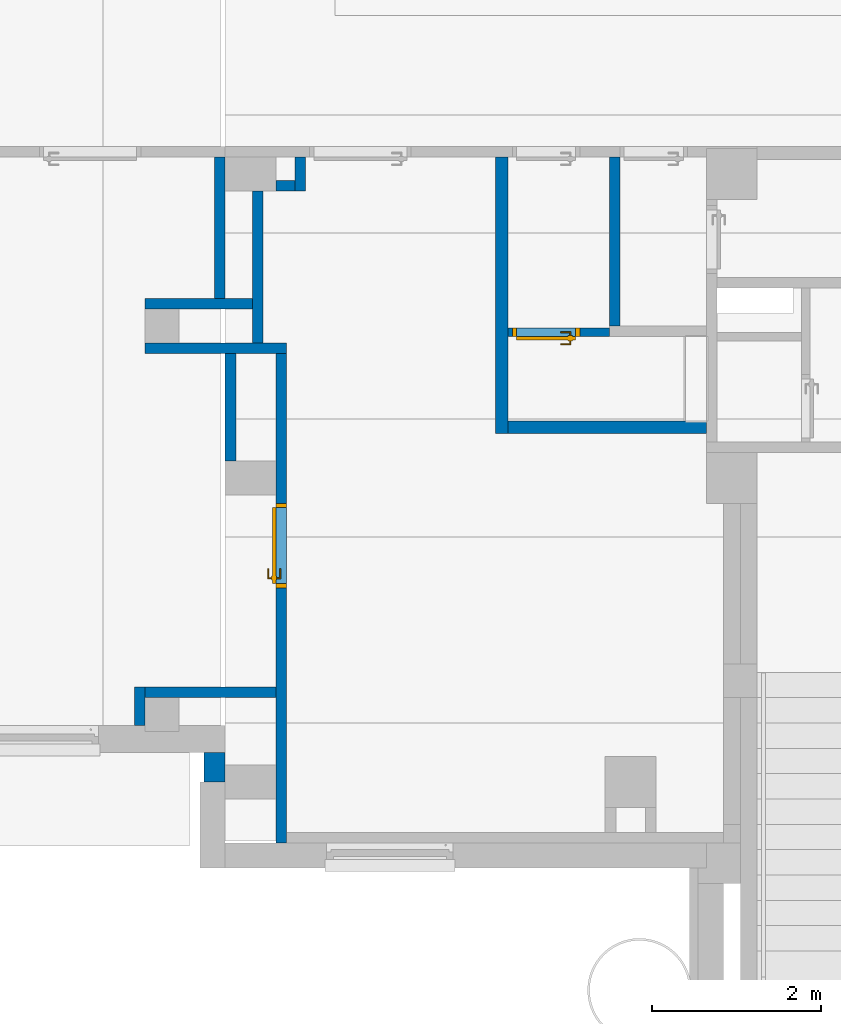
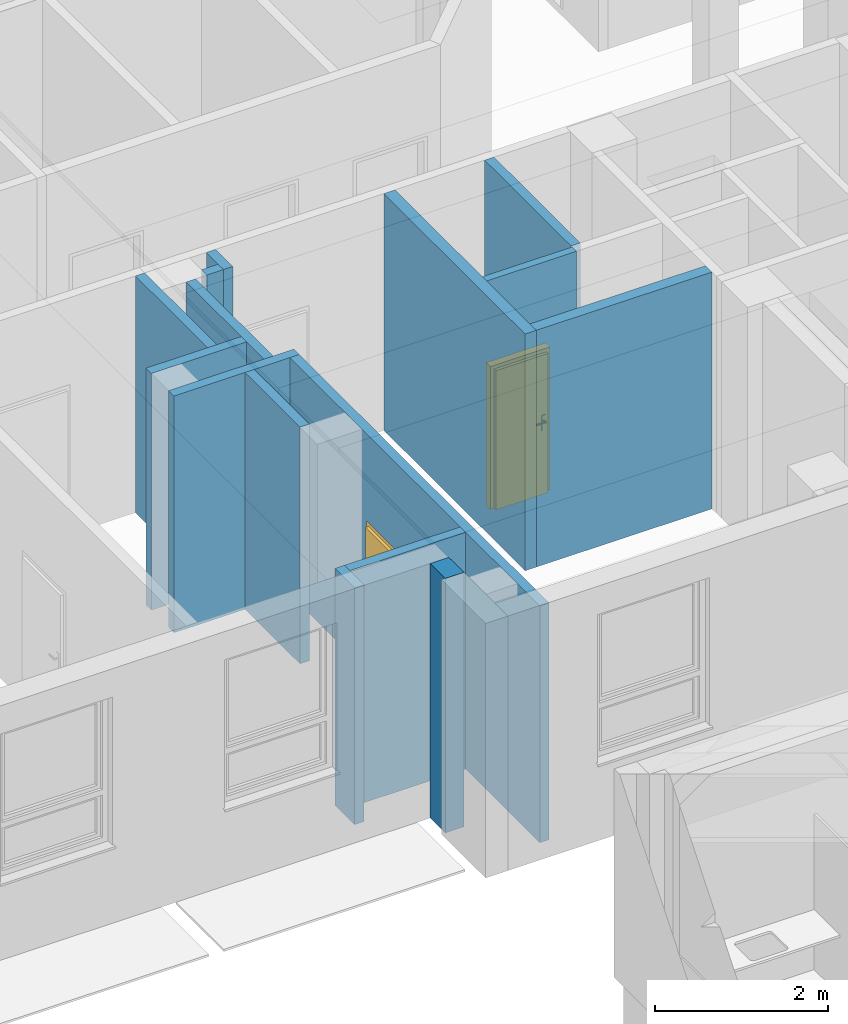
# One storey, part 33 of 140: 15 walls, 2 doors, 2 openings.
"""IFC4 building model written with IfcOpenShell, lengths in metres."""

from ifc_helpers import new_model, entity, si_unit, converted_unit, derived_unit, frame, frame_2d, origin, origin_with_axes, place, context, subcontext, project, spatial, polyline, rectangle, outline, extrude, closed_shell, open_shell, surface_model, source, transform, mapped, material, layer, layer_set, layer_usage, type_object, element, fill, save


model = new_model("IFC4")

# Units and contexts
model_context = context("Model", 3, precision=1e-05, world=origin())
body_context = subcontext(model_context, "Body", "Model", "MODEL_VIEW")
ifc_project = project(units=[si_unit("LENGTHUNIT", "METRE"), si_unit("AREAUNIT", "SQUARE_METRE"), si_unit("VOLUMEUNIT", "CUBIC_METRE"), si_unit("MASSUNIT", "GRAM", prefix="KILO"), converted_unit("PLANEANGLEUNIT", "DEGREE", entity("IfcPlaneAngleMeasure", 0.0174532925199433), si_unit("PLANEANGLEUNIT", "RADIAN"), dimensions=[0, 0, 0, 0, 0, 0, 0]), derived_unit("THERMALTRANSMITTANCEUNIT", [(si_unit("POWERUNIT", "WATT"), 1), (si_unit("THERMODYNAMICTEMPERATUREUNIT", "KELVIN"), -1), (si_unit("LENGTHUNIT", "METRE"), -2)]), derived_unit("VOLUMETRICFLOWRATEUNIT", [(si_unit("LENGTHUNIT", "METRE"), 3), (converted_unit("TIMEUNIT", "hour", entity("IfcTimeMeasure", 3600.0), si_unit("TIMEUNIT", "SECOND"), dimensions=[0, 0, 1, 0, 0, 0, 0]), -1), (si_unit("LENGTHUNIT", "METRE"), -1)])], contexts=[model_context])

# Site, building, storey
site_placement = place(None, origin())
site = spatial("IfcSite", under=ifc_project, at=site_placement, Name="3. ASŘ", CompositionType="ELEMENT")
building_placement = place(site_placement, origin())
building = spatial("IfcBuilding", under=site, at=building_placement, Name="Pavilon C", CompositionType="ELEMENT")
storey_placement = place(building_placement, origin())
storey = spatial("IfcBuildingStorey", under=building, at=storey_placement, Name="Půdorys 1.NP", CompositionType="ELEMENT", Elevation=0.0)

# Walls
ifc_material_1 = material(Name="ZDIVO Z CDm")
ifc_layer_1 = layer(ifc_material_1, 0.125)
ifc_layer_set_1 = layer_set([ifc_layer_1])
ifc_layer_usage_1 = layer_usage(ifc_layer_set_1, "AXIS2", "POSITIVE", 0.0)
wall_1_placement = place(storey_placement, frame((25.475, 5.2, -0.1), z_axis=(0.0, 0.0, 1.0), x_axis=(-1.0, 0.0, 0.0)))
element("IfcWall", 1, at=wall_1_placement, inside=storey, material=ifc_layer_usage_1, Name="ZDIVO Z CDm", context=body_context, shape_type="SweptSolid", body=[
    extrude(rectangle(XDim=1.67499999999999, YDim=0.125, at=frame_2d((0.837499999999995, 0.0625), x_axis=(1.0, 0.0))), origin_with_axes(), (0.0, 0.0, 1.0), 3.35),
])
ifc_material_2 = material(Name="ZDIVO Z CDm")
ifc_layer_2 = layer(ifc_material_2, 0.125)
ifc_layer_set_2 = layer_set([ifc_layer_2])
ifc_layer_usage_2 = layer_usage(ifc_layer_set_2, "AXIS2", "POSITIVE", 0.0)
wall_2_placement = place(storey_placement, frame((23.8, 5.6, -0.1)))
element("IfcWall", 2, at=wall_2_placement, inside=storey, material=ifc_layer_usage_2, Name="ZDIVO Z CDm", context=body_context, shape_type="SweptSolid", body=[
    extrude(rectangle(XDim=1.27500000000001, YDim=0.125, at=frame_2d((0.637500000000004, 0.0625), x_axis=(1.0, 0.0))), origin_with_axes(), (0.0, 0.0, 1.0), 3.35),
])
ifc_material_3 = material(Name="ZDIVO Z CDm")
ifc_layer_3 = layer(ifc_material_3, 0.125)
ifc_layer_set_3 = layer_set([ifc_layer_3])
ifc_layer_usage_3 = layer_usage(ifc_layer_set_3, "AXIS2", "POSITIVE", 0.0)
wall_3_placement = place(storey_placement, frame((24.75, 5.075, -0.1), z_axis=(0.0, 0.0, 1.0), x_axis=(0.0, -1.0, 0.0)))
element("IfcWall", 3, at=wall_3_placement, inside=storey, material=ifc_layer_usage_3, Name="ZDIVO Z CDm", context=body_context, shape_type="SweptSolid", body=[
    extrude(rectangle(XDim=1.275, YDim=0.125, at=frame_2d((0.637500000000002, 0.0625), x_axis=(1.0, 0.0))), origin_with_axes(), (0.0, 0.0, 1.0), 3.35),
])

# Wall, opening, door
ifc_material_4 = material(Name="ZDIVO Z CDm")
ifc_layer_4 = layer(ifc_material_4, 0.125)
ifc_layer_set_4 = layer_set([ifc_layer_4])
ifc_layer_usage_4 = layer_usage(ifc_layer_set_4, "AXIS2", "POSITIVE", 0.0)
wall_4_placement = place(storey_placement, frame((25.35, 5.075, -0.1), z_axis=(0.0, 0.0, 1.0), x_axis=(0.0, -1.0, 0.0)))
wall_4 = element("IfcWall", 4, at=wall_4_placement, inside=storey, material=ifc_layer_usage_4, Name="ZDIVO Z CDm", context=body_context, shape_type="SweptSolid", body=[
    extrude(rectangle(XDim=5.795, YDim=0.125, at=frame_2d((2.8975, 0.0625), x_axis=(1.0, 0.0))), origin_with_axes(), (0.0, 0.0, 1.0), 3.35),
])
opening_1_placement = place(wall_4_placement, frame((1.775, 0.0, 0.1), z_axis=(0.0, 1.0, 0.0), x_axis=(0.0, 0.0, 1.0)))
opening_1 = element("IfcOpeningElement", 5, at=opening_1_placement, cuts=wall_4, Name="Dveřní otvor", ObjectType="Opening", context=body_context, shape_type="SweptSolid", body=[
    extrude(outline(polyline([(0.0, 1.0), (2.02, 1.0), (2.02, 0.0), (0.0, 0.0), (0.0, 1.0)])), origin_with_axes(), (0.0, 0.0, 1.0), 0.125),
])
door_type_1 = type_object("IfcDoorType", Name="D101", OperationType="NOTDEFINED", ParameterTakesPrecedence=False, PredefinedType="DOOR")
shared_shape_1 = source(origin_with_axes(), body_context, "Body", "SurfaceModel", [
    surface_model("IfcShellBasedSurfaceModel", [(0.0, 0.125, 2.02), (0.0, 0.125, -7.65404249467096e-18), (0.05, 0.125, -7.65404249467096e-18), (0.05, 0.125, 2.02), (0.0, 0.0, 7.65404249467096e-18), (0.0, 2.41584530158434e-16, 2.02), (0.05, 2.41584530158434e-16, 2.02), (0.05, 0.0, 7.65404249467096e-18)], [closed_shell([[[0, 1, 2, 3]], [[4, 5, 6, 7]], [[1, 0, 5, 4]], [[2, 1, 4, 7]], [[3, 2, 7, 6]], [[0, 3, 6, 5]]], orient=[[False], [False], [False], [False], [False], [False]])]),
    surface_model("IfcShellBasedSurfaceModel", [(0.95, 0.125, 2.02), (0.95, 0.125, -7.65404249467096e-18), (1.0, 0.125, -7.65404249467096e-18), (1.0, 0.125, 2.02), (0.95, 0.0, 7.65404249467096e-18), (0.95, 2.41584530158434e-16, 2.02), (1.0, 2.41584530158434e-16, 2.02), (1.0, 0.0, 7.65404249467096e-18)], [closed_shell([[[0, 1, 2, 3]], [[4, 5, 6, 7]], [[1, 0, 5, 4]], [[2, 1, 4, 7]], [[3, 2, 7, 6]], [[0, 3, 6, 5]]], orient=[[False], [False], [False], [False], [False], [False]])]),
    surface_model("IfcShellBasedSurfaceModel", [(0.05, 0.125, 2.02), (0.05, 0.125, 1.97), (0.95, 0.125, 1.97), (0.95, 0.125, 2.02), (0.05, 2.41584530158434e-16, 1.97), (0.05, 2.41584530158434e-16, 2.02), (0.95, 2.41584530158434e-16, 2.02), (0.95, 2.41584530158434e-16, 1.97)], [closed_shell([[[0, 1, 2, 3]], [[4, 5, 6, 7]], [[1, 0, 5, 4]], [[2, 1, 4, 7]], [[3, 2, 7, 6]], [[0, 3, 6, 5]]], orient=[[False], [False], [False], [False], [False], [False]])]),
    surface_model("IfcShellBasedSurfaceModel", [(0.05, 0.165, 1.97), (0.05, 0.165, -1.25526296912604e-17), (0.95, 0.165, -1.25526296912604e-17), (0.95, 0.165, 1.97), (0.05, 0.125, -7.65404249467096e-18), (0.05, 0.125, 1.97), (0.95, 0.125, 1.97), (0.95, 0.125, -7.65404249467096e-18)], [closed_shell([[[0, 1, 2, 3]], [[4, 5, 6, 7]], [[1, 0, 5, 4]], [[2, 1, 4, 7]], [[3, 2, 7, 6]], [[0, 3, 6, 5]]], orient=[[False], [False], [False], [False], [False], [False]])]),
    surface_model("IfcShellBasedSurfaceModel", [(0.86, 0.125, 1.125), (0.86, 0.125, 0.91), (0.91, 0.125, 0.91), (0.91, 0.125, 1.125), (0.86, 0.115, 0.91), (0.86, 0.115, 1.125), (0.91, 0.115, 1.125), (0.91, 0.115, 0.91)], [closed_shell([[[0, 1, 2, 3]], [[4, 5, 6, 7]], [[1, 0, 5, 4]], [[2, 1, 4, 7]], [[3, 2, 7, 6]], [[0, 3, 6, 5]]], orient=[[False], [False], [False], [False], [False], [False]])]),
    surface_model("IfcShellBasedSurfaceModel", [(0.885, 0.115, 1.06), (0.88, 0.115, 1.05866025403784), (0.876339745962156, 0.115, 1.055), (0.875, 0.115, 1.05), (0.876339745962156, 0.115, 1.045), (0.88, 0.115, 1.04133974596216), (0.885, 0.115, 1.04), (0.89, 0.115, 1.04133974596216), (0.893660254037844, 0.115, 1.045), (0.895, 0.115, 1.05), (0.893660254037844, 0.115, 1.055), (0.89, 0.115, 1.05866025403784), (0.89, 0.0700000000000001, 1.05866025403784), (0.885, 0.0750000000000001, 1.06), (0.893660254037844, 0.0663397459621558, 1.055), (0.895, 0.0650000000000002, 1.05), (0.893660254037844, 0.0663397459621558, 1.045), (0.89, 0.0700000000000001, 1.04133974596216), (0.885, 0.0750000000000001, 1.04), (0.88, 0.0800000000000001, 1.04133974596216), (0.876339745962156, 0.0836602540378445, 1.045), (0.875, 0.0850000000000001, 1.05), (0.876339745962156, 0.0836602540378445, 1.055), (0.88, 0.0800000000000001, 1.05866025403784), (0.77, 0.0700000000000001, 1.05866025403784), (0.77, 0.0750000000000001, 1.06), (0.77, 0.0663397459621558, 1.055), (0.77, 0.0650000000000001, 1.05), (0.77, 0.0663397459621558, 1.045), (0.77, 0.0700000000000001, 1.04133974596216), (0.77, 0.0750000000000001, 1.04), (0.77, 0.0800000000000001, 1.04133974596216), (0.77, 0.0836602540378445, 1.045), (0.77, 0.0850000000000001, 1.05), (0.77, 0.0836602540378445, 1.055), (0.77, 0.0800000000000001, 1.05866025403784)], [open_shell([[[0, 1, 2, 3, 4, 5, 6, 7, 8, 9, 10, 11]], [[0, 11, 12, 13]], [[11, 10, 14, 12]], [[10, 9, 15, 14]], [[9, 8, 16, 15]], [[8, 7, 17, 16]], [[7, 6, 18, 17]], [[6, 5, 19, 18]], [[5, 4, 20, 19]], [[4, 3, 21, 20]], [[3, 2, 22, 21]], [[2, 1, 23, 22]], [[1, 0, 13, 23]], [[13, 12, 24, 25]], [[12, 14, 26, 24]], [[14, 15, 27, 26]], [[15, 16, 28, 27]], [[16, 17, 29, 28]], [[17, 18, 30, 29]], [[18, 19, 31, 30]], [[19, 20, 32, 31]], [[20, 21, 33, 32]], [[21, 22, 34, 33]], [[22, 23, 35, 34]], [[23, 13, 25, 35]]], orient=[[False], [False], [False], [False], [False], [False], [False], [False], [False], [False], [False], [False], [False], [False], [False], [False], [False], [False], [False], [False], [False], [False], [False], [False], [False]])]),
    surface_model("IfcShellBasedSurfaceModel", [(0.86, 0.165, 1.125), (0.91, 0.165, 1.125), (0.91, 0.165, 0.91), (0.86, 0.165, 0.91), (0.86, 0.175, 0.91), (0.91, 0.175, 0.91), (0.91, 0.175, 1.125), (0.86, 0.175, 1.125)], [closed_shell([[[0, 1, 2, 3]], [[4, 5, 6, 7]], [[3, 4, 7, 0]], [[2, 5, 4, 3]], [[1, 6, 5, 2]], [[0, 7, 6, 1]]], orient=[[False], [False], [False], [False], [False], [False]])]),
    surface_model("IfcShellBasedSurfaceModel", [(0.885, 0.175, 1.06), (0.89, 0.175, 1.05866025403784), (0.893660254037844, 0.175, 1.055), (0.895, 0.175, 1.05), (0.893660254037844, 0.175, 1.045), (0.89, 0.175, 1.04133974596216), (0.885, 0.175, 1.04), (0.88, 0.175, 1.04133974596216), (0.876339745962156, 0.175, 1.045), (0.875, 0.175, 1.05), (0.876339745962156, 0.175, 1.055), (0.88, 0.175, 1.05866025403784), (0.885, 0.215, 1.06), (0.89, 0.22, 1.05866025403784), (0.893660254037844, 0.223660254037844, 1.055), (0.895, 0.225, 1.05), (0.893660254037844, 0.223660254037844, 1.045), (0.89, 0.22, 1.04133974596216), (0.885, 0.215, 1.04), (0.88, 0.21, 1.04133974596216), (0.876339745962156, 0.206339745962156, 1.045), (0.875, 0.205, 1.05), (0.876339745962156, 0.206339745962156, 1.055), (0.88, 0.21, 1.05866025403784), (0.77, 0.215, 1.06), (0.77, 0.22, 1.05866025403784), (0.77, 0.223660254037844, 1.055), (0.77, 0.225, 1.05), (0.77, 0.223660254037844, 1.045), (0.77, 0.22, 1.04133974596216), (0.77, 0.215, 1.04), (0.77, 0.21, 1.04133974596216), (0.77, 0.206339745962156, 1.045), (0.77, 0.205, 1.05), (0.77, 0.206339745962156, 1.055), (0.77, 0.21, 1.05866025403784)], [open_shell([[[0, 1, 2, 3, 4, 5, 6, 7, 8, 9, 10, 11]], [[0, 12, 13, 1]], [[1, 13, 14, 2]], [[2, 14, 15, 3]], [[3, 15, 16, 4]], [[4, 16, 17, 5]], [[5, 17, 18, 6]], [[6, 18, 19, 7]], [[7, 19, 20, 8]], [[8, 20, 21, 9]], [[9, 21, 22, 10]], [[10, 22, 23, 11]], [[11, 23, 12, 0]], [[12, 24, 25, 13]], [[13, 25, 26, 14]], [[14, 26, 27, 15]], [[15, 27, 28, 16]], [[16, 28, 29, 17]], [[17, 29, 30, 18]], [[18, 30, 31, 19]], [[19, 31, 32, 20]], [[20, 32, 33, 21]], [[21, 33, 34, 22]], [[22, 34, 35, 23]], [[23, 35, 24, 12]]], orient=[[False], [False], [False], [False], [False], [False], [False], [False], [False], [False], [False], [False], [False], [False], [False], [False], [False], [False], [False], [False], [False], [False], [False], [False], [False]])]),
])
door_1_placement = place(opening_1_placement, frame((0.0, 9.09494701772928e-16, 0.124999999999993), z_axis=(1.0, 0.0, 0.0), x_axis=(0.0, 1.0, -1.22464679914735e-16)))
door_1 = element("IfcDoor", 6, at=door_1_placement, inside=storey, type_object=door_type_1, Name="D101", OverallHeight=2.02, OverallWidth=1.0, context=body_context, shape_type="MappedRepresentation", body=[
    mapped(shared_shape_1, transform((0.0, 0.0, 0.0), x_axis=(1.0, 0.0, 0.0), y_axis=(0.0, -1.0, 0.0), z_axis=(0.0, 0.0, 1.0), scale=1.0)),
])
fill(opening_1, door_1)

# Walls
ifc_material_5 = material(Name="ZDIVO Z CDm")
ifc_layer_5 = layer(ifc_material_5, 0.125)
ifc_layer_set_5 = layer_set([ifc_layer_5])
ifc_layer_usage_5 = layer_usage(ifc_layer_set_5, "AXIS2", "POSITIVE", 0.0)
wall_5_placement = place(storey_placement, frame((23.8, 0.670000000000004, -0.1), z_axis=(0.0, 0.0, 1.0), x_axis=(0.0, 1.0, 0.0)))
element("IfcWall", 7, at=wall_5_placement, inside=storey, material=ifc_layer_usage_5, Name="ZDIVO Z CDm", context=body_context, shape_type="SweptSolid", body=[
    extrude(rectangle(XDim=0.454999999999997, YDim=0.125, at=frame_2d((0.227499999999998, 0.0625), x_axis=(1.0, 0.0))), origin_with_axes(), (0.0, 0.0, 1.0), 3.35),
])
ifc_material_6 = material(Name="ZDIVO Z CDm")
ifc_layer_6 = layer(ifc_material_6, 0.125)
ifc_layer_set_6 = layer_set([ifc_layer_6])
ifc_layer_usage_6 = layer_usage(ifc_layer_set_6, "AXIS2", "POSITIVE", 0.0)
wall_6_placement = place(storey_placement, frame((23.8, 1.0, -0.1)))
element("IfcWall", 8, at=wall_6_placement, inside=storey, material=ifc_layer_usage_6, Name="ZDIVO Z CDm", context=body_context, shape_type="SweptSolid", body=[
    extrude(rectangle(XDim=1.54999999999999, YDim=0.125, at=frame_2d((0.774999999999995, 0.0625), x_axis=(1.0, 0.0))), origin_with_axes(), (0.0, 0.0, 1.0), 3.35),
])
ifc_material_7 = material(Name="PÓROBETONOVÉ ZDIVO")
ifc_layer_7 = layer(ifc_material_7, 0.25)
ifc_layer_set_7 = layer_set([ifc_layer_7])
ifc_layer_usage_7 = layer_usage(ifc_layer_set_7, "AXIS2", "POSITIVE", 0.0)
wall_7_placement = place(storey_placement, frame((24.5, 0.350000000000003, -0.1), z_axis=(0.0, 0.0, 1.0), x_axis=(0.0, -1.0, 0.0)))
element("IfcWall", 9, at=wall_7_placement, inside=storey, material=ifc_layer_usage_7, Name="PÓROBETONOVÉ ZDIVO", context=body_context, shape_type="SweptSolid", body=[
    extrude(rectangle(XDim=0.350000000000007, YDim=0.25, at=frame_2d((0.175000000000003, 0.125), x_axis=(1.0, 0.0))), origin_with_axes(), (0.0, 0.0, 1.0), 3.6),
])
ifc_material_8 = material(Name="ZDIVO Z CDm")
ifc_layer_8 = layer(ifc_material_8, 0.125)
ifc_layer_set_8 = layer_set([ifc_layer_8])
ifc_layer_usage_8 = layer_usage(ifc_layer_set_8, "AXIS2", "POSITIVE", 0.0)
wall_8_placement = place(storey_placement, frame((24.75, 5.725, -0.1), z_axis=(0.0, 0.0, 1.0), x_axis=(0.0, 1.0, 0.0)))
element("IfcWall", 10, at=wall_8_placement, inside=storey, material=ifc_layer_usage_8, Name="ZDIVO Z CDm", context=body_context, shape_type="SweptSolid", body=[
    extrude(rectangle(XDim=1.675, YDim=0.125, at=frame_2d((0.837499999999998, 0.0625), x_axis=(1.0, 0.0))), origin_with_axes(), (0.0, 0.0, 1.0), 3.35),
])
ifc_material_9 = material(Name="ZDIVO Z CDm")
ifc_layer_9 = layer(ifc_material_9, 0.125)
ifc_layer_set_9 = layer_set([ifc_layer_9])
ifc_layer_usage_9 = layer_usage(ifc_layer_set_9, "AXIS2", "POSITIVE", 0.0)
wall_9_placement = place(storey_placement, frame((25.7, 7.0, -0.1), z_axis=(0.0, 0.0, 1.0), x_axis=(0.0, 1.0, 0.0)))
element("IfcWall", 11, at=wall_9_placement, inside=storey, material=ifc_layer_usage_9, Name="ZDIVO Z CDm", context=body_context, shape_type="SweptSolid", body=[
    extrude(rectangle(XDim=0.4, YDim=0.125, at=frame_2d((0.2, 0.0625), x_axis=(1.0, 0.0))), origin_with_axes(), (0.0, 0.0, 1.0), 3.35),
])
ifc_material_10 = material(Name="ZDIVO Z CDm")
ifc_layer_10 = layer(ifc_material_10, 0.125)
ifc_layer_set_10 = layer_set([ifc_layer_10])
ifc_layer_usage_10 = layer_usage(ifc_layer_set_10, "AXIS2", "POSITIVE", 0.0)
wall_10_placement = place(storey_placement, frame((25.35, 7.0, -0.1)))
element("IfcWall", 12, at=wall_10_placement, inside=storey, material=ifc_layer_usage_10, Name="ZDIVO Z CDm", context=body_context, shape_type="SweptSolid", body=[
    extrude(rectangle(XDim=0.225000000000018, YDim=0.125, at=frame_2d((0.112500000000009, 0.0625), x_axis=(1.0, 0.0))), origin_with_axes(), (0.0, 0.0, 1.0), 3.35),
])
ifc_material_11 = material(Name="ZDIVO Z CDm")
ifc_layer_11 = layer(ifc_material_11, 0.125)
ifc_layer_set_11 = layer_set([ifc_layer_11])
ifc_layer_usage_11 = layer_usage(ifc_layer_set_11, "AXIS2", "POSITIVE", 0.0)
wall_11_placement = place(storey_placement, frame((25.075, 7.0, -0.1), z_axis=(0.0, 0.0, 1.0), x_axis=(0.0, -1.0, 0.0)))
element("IfcWall", 13, at=wall_11_placement, inside=storey, material=ifc_layer_usage_11, Name="ZDIVO Z CDm", context=body_context, shape_type="SweptSolid", body=[
    extrude(rectangle(XDim=1.79999999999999, YDim=0.125, at=frame_2d((0.899999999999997, 0.0625), x_axis=(1.0, 0.0))), origin_with_axes(), (0.0, 0.0, 1.0), 3.35),
])
ifc_material_12 = material(Name="YTONG 150")
ifc_layer_12 = layer(ifc_material_12, 0.15)
ifc_layer_set_12 = layer_set([ifc_layer_12])
ifc_layer_usage_12 = layer_usage(ifc_layer_set_12, "AXIS2", "POSITIVE", 0.0)
wall_12_placement = place(storey_placement, frame((27.95, 7.4, -0.1), z_axis=(0.0, 0.0, 1.0), x_axis=(0.0, -1.0, 0.0)))
element("IfcWall", 14, at=wall_12_placement, inside=storey, material=ifc_layer_usage_12, Name="YTONG 150", context=body_context, shape_type="SweptSolid", body=[
    extrude(rectangle(XDim=3.275, YDim=0.15, at=frame_2d((1.6375, 0.075), x_axis=(1.0, 0.0))), origin_with_axes(), (0.0, 0.0, 1.0), 3.35),
])
ifc_material_13 = material(Name="YTONG 125")
ifc_layer_13 = layer(ifc_material_13, 0.125)
ifc_layer_set_13 = layer_set([ifc_layer_13])
ifc_layer_usage_13 = layer_usage(ifc_layer_set_13, "AXIS2", "POSITIVE", 0.0)
wall_13_placement = place(storey_placement, frame((29.3, 7.4, -0.25), z_axis=(0.0, 0.0, 1.0), x_axis=(0.0, -1.0, 0.0)))
element("IfcWall", 15, at=wall_13_placement, inside=storey, material=ifc_layer_usage_13, Name="YTONG 125", context=body_context, shape_type="SweptSolid", body=[
    extrude(rectangle(XDim=2.0, YDim=0.125, at=frame_2d((1.0, 0.0625), x_axis=(1.0, 0.0))), origin_with_axes(), (0.0, 0.0, 1.0), 3.5),
])
ifc_material_14 = material(Name="YTONG 150")
ifc_layer_14 = layer(ifc_material_14, 0.15)
ifc_layer_set_14 = layer_set([ifc_layer_14])
ifc_layer_usage_14 = layer_usage(ifc_layer_set_14, "AXIS2", "POSITIVE", 0.0)
wall_14_placement = place(storey_placement, frame((28.1, 4.125, -0.1)))
element("IfcWall", 16, at=wall_14_placement, inside=storey, material=ifc_layer_usage_14, Name="YTONG 150", context=body_context, shape_type="SweptSolid", body=[
    extrude(rectangle(XDim=2.34999999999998, YDim=0.15, at=frame_2d((1.17499999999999, 0.075), x_axis=(1.0, 0.0))), origin_with_axes(), (0.0, 0.0, 1.0), 3.35),
])

# Wall, opening, door
ifc_material_15 = material(Name="YTONG 100")
ifc_layer_15 = layer(ifc_material_15, 0.1)
ifc_layer_set_15 = layer_set([ifc_layer_15])
ifc_layer_usage_15 = layer_usage(ifc_layer_set_15, "AXIS2", "POSITIVE", 0.0)
wall_15_placement = place(storey_placement, frame((28.1, 5.275, -0.1)))
wall_15 = element("IfcWall", 17, at=wall_15_placement, inside=storey, material=ifc_layer_usage_15, Name="YTONG 100", context=body_context, shape_type="SweptSolid", body=[
    extrude(rectangle(XDim=1.2, YDim=0.1, at=frame_2d((0.6, 0.05), x_axis=(1.0, 0.0))), origin_with_axes(), (0.0, 0.0, 1.0), 3.35),
])
opening_2_placement = place(wall_15_placement, frame((0.05, 0.0, 0.1), z_axis=(0.0, 1.0, 0.0), x_axis=(0.0, 0.0, 1.0)))
opening_2 = element("IfcOpeningElement", 18, at=opening_2_placement, cuts=wall_15, Name="Dveřní otvor", ObjectType="Opening", context=body_context, shape_type="SweptSolid", body=[
    extrude(outline(polyline([(0.0, 0.8), (2.02, 0.8), (2.02, 0.0), (0.0, 0.0), (0.0, 0.8)])), origin_with_axes(), (0.0, 0.0, 1.0), 0.1),
])
door_type_2 = type_object("IfcDoorType", Name="D101", OperationType="NOTDEFINED", ParameterTakesPrecedence=False, PredefinedType="DOOR")
shared_shape_2 = source(origin_with_axes(), body_context, "Body", "SurfaceModel", [
    surface_model("IfcShellBasedSurfaceModel", [(0.0, 0.1, 2.02), (0.0, 0.1, -6.12323399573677e-18), (0.05, 0.1, -6.12323399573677e-18), (0.05, 0.1, 2.02), (0.0, 0.0, 6.12323399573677e-18), (0.0, 2.41584530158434e-16, 2.02), (0.05, 2.41584530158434e-16, 2.02), (0.05, 0.0, 6.12323399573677e-18)], [closed_shell([[[0, 1, 2, 3]], [[4, 5, 6, 7]], [[1, 0, 5, 4]], [[2, 1, 4, 7]], [[3, 2, 7, 6]], [[0, 3, 6, 5]]], orient=[[False], [False], [False], [False], [False], [False]])]),
    surface_model("IfcShellBasedSurfaceModel", [(0.75, 0.1, 2.02), (0.75, 0.1, -6.12323399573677e-18), (0.8, 0.1, -6.12323399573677e-18), (0.8, 0.1, 2.02), (0.75, 0.0, 6.12323399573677e-18), (0.75, 2.41584530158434e-16, 2.02), (0.8, 2.41584530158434e-16, 2.02), (0.8, 0.0, 6.12323399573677e-18)], [closed_shell([[[0, 1, 2, 3]], [[4, 5, 6, 7]], [[1, 0, 5, 4]], [[2, 1, 4, 7]], [[3, 2, 7, 6]], [[0, 3, 6, 5]]], orient=[[False], [False], [False], [False], [False], [False]])]),
    surface_model("IfcShellBasedSurfaceModel", [(0.05, 0.1, 2.02), (0.05, 0.1, 1.97), (0.75, 0.1, 1.97), (0.75, 0.1, 2.02), (0.05, 2.41584530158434e-16, 1.97), (0.05, 2.41584530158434e-16, 2.02), (0.75, 2.41584530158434e-16, 2.02), (0.75, 2.41584530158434e-16, 1.97)], [closed_shell([[[0, 1, 2, 3]], [[4, 5, 6, 7]], [[1, 0, 5, 4]], [[2, 1, 4, 7]], [[3, 2, 7, 6]], [[0, 3, 6, 5]]], orient=[[False], [False], [False], [False], [False], [False]])]),
    surface_model("IfcShellBasedSurfaceModel", [(0.05, 0.14, 1.97), (0.05, 0.14, -1.10218211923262e-17), (0.75, 0.14, -1.10218211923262e-17), (0.75, 0.14, 1.97), (0.05, 0.1, -6.12323399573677e-18), (0.05, 0.1, 1.97), (0.75, 0.1, 1.97), (0.75, 0.1, -6.12323399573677e-18)], [closed_shell([[[0, 1, 2, 3]], [[4, 5, 6, 7]], [[1, 0, 5, 4]], [[2, 1, 4, 7]], [[3, 2, 7, 6]], [[0, 3, 6, 5]]], orient=[[False], [False], [False], [False], [False], [False]])]),
    surface_model("IfcShellBasedSurfaceModel", [(0.66, 0.1, 1.125), (0.66, 0.1, 0.91), (0.71, 0.1, 0.91), (0.71, 0.1, 1.125), (0.66, 0.0900000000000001, 0.91), (0.66, 0.0900000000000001, 1.125), (0.71, 0.0900000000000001, 1.125), (0.71, 0.0900000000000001, 0.91)], [closed_shell([[[0, 1, 2, 3]], [[4, 5, 6, 7]], [[1, 0, 5, 4]], [[2, 1, 4, 7]], [[3, 2, 7, 6]], [[0, 3, 6, 5]]], orient=[[False], [False], [False], [False], [False], [False]])]),
    surface_model("IfcShellBasedSurfaceModel", [(0.685, 0.0900000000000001, 1.06), (0.68, 0.0900000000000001, 1.05866025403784), (0.676339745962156, 0.0900000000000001, 1.055), (0.675, 0.0900000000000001, 1.05), (0.676339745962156, 0.0900000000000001, 1.045), (0.68, 0.0900000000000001, 1.04133974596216), (0.685, 0.0900000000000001, 1.04), (0.69, 0.0900000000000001, 1.04133974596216), (0.693660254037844, 0.0900000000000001, 1.045), (0.695, 0.0900000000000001, 1.05), (0.693660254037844, 0.0900000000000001, 1.055), (0.69, 0.0900000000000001, 1.05866025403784), (0.69, 0.0450000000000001, 1.05866025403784), (0.685, 0.0500000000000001, 1.06), (0.693660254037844, 0.0413397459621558, 1.055), (0.695, 0.0400000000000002, 1.05), (0.693660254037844, 0.0413397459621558, 1.045), (0.69, 0.0450000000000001, 1.04133974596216), (0.685, 0.0500000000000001, 1.04), (0.68, 0.0550000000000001, 1.04133974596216), (0.676339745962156, 0.0586602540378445, 1.045), (0.675, 0.0600000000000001, 1.05), (0.676339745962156, 0.0586602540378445, 1.055), (0.68, 0.0550000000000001, 1.05866025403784), (0.57, 0.0450000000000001, 1.05866025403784), (0.57, 0.0500000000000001, 1.06), (0.57, 0.0413397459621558, 1.055), (0.57, 0.0400000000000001, 1.05), (0.57, 0.0413397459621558, 1.045), (0.57, 0.0450000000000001, 1.04133974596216), (0.57, 0.0500000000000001, 1.04), (0.57, 0.0550000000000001, 1.04133974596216), (0.57, 0.0586602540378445, 1.045), (0.57, 0.0600000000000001, 1.05), (0.57, 0.0586602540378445, 1.055), (0.57, 0.0550000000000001, 1.05866025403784)], [open_shell([[[0, 1, 2, 3, 4, 5, 6, 7, 8, 9, 10, 11]], [[0, 11, 12, 13]], [[11, 10, 14, 12]], [[10, 9, 15, 14]], [[9, 8, 16, 15]], [[8, 7, 17, 16]], [[7, 6, 18, 17]], [[6, 5, 19, 18]], [[5, 4, 20, 19]], [[4, 3, 21, 20]], [[3, 2, 22, 21]], [[2, 1, 23, 22]], [[1, 0, 13, 23]], [[13, 12, 24, 25]], [[12, 14, 26, 24]], [[14, 15, 27, 26]], [[15, 16, 28, 27]], [[16, 17, 29, 28]], [[17, 18, 30, 29]], [[18, 19, 31, 30]], [[19, 20, 32, 31]], [[20, 21, 33, 32]], [[21, 22, 34, 33]], [[22, 23, 35, 34]], [[23, 13, 25, 35]]], orient=[[False], [False], [False], [False], [False], [False], [False], [False], [False], [False], [False], [False], [False], [False], [False], [False], [False], [False], [False], [False], [False], [False], [False], [False], [False]])]),
    surface_model("IfcShellBasedSurfaceModel", [(0.66, 0.14, 1.125), (0.71, 0.14, 1.125), (0.71, 0.14, 0.91), (0.66, 0.14, 0.91), (0.66, 0.15, 0.91), (0.71, 0.15, 0.91), (0.71, 0.15, 1.125), (0.66, 0.15, 1.125)], [closed_shell([[[0, 1, 2, 3]], [[4, 5, 6, 7]], [[3, 4, 7, 0]], [[2, 5, 4, 3]], [[1, 6, 5, 2]], [[0, 7, 6, 1]]], orient=[[False], [False], [False], [False], [False], [False]])]),
    surface_model("IfcShellBasedSurfaceModel", [(0.685, 0.15, 1.06), (0.69, 0.15, 1.05866025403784), (0.693660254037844, 0.15, 1.055), (0.695, 0.15, 1.05), (0.693660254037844, 0.15, 1.045), (0.69, 0.15, 1.04133974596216), (0.685, 0.15, 1.04), (0.68, 0.15, 1.04133974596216), (0.676339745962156, 0.15, 1.045), (0.675, 0.15, 1.05), (0.676339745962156, 0.15, 1.055), (0.68, 0.15, 1.05866025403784), (0.685, 0.19, 1.06), (0.69, 0.195, 1.05866025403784), (0.693660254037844, 0.198660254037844, 1.055), (0.695, 0.2, 1.05), (0.693660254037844, 0.198660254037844, 1.045), (0.69, 0.195, 1.04133974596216), (0.685, 0.19, 1.04), (0.68, 0.185, 1.04133974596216), (0.676339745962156, 0.181339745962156, 1.045), (0.675, 0.18, 1.05), (0.676339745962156, 0.181339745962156, 1.055), (0.68, 0.185, 1.05866025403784), (0.57, 0.19, 1.06), (0.57, 0.195, 1.05866025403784), (0.57, 0.198660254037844, 1.055), (0.57, 0.2, 1.05), (0.57, 0.198660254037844, 1.045), (0.57, 0.195, 1.04133974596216), (0.57, 0.19, 1.04), (0.57, 0.185, 1.04133974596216), (0.57, 0.181339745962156, 1.045), (0.57, 0.18, 1.05), (0.57, 0.181339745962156, 1.055), (0.57, 0.185, 1.05866025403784)], [open_shell([[[0, 1, 2, 3, 4, 5, 6, 7, 8, 9, 10, 11]], [[0, 12, 13, 1]], [[1, 13, 14, 2]], [[2, 14, 15, 3]], [[3, 15, 16, 4]], [[4, 16, 17, 5]], [[5, 17, 18, 6]], [[6, 18, 19, 7]], [[7, 19, 20, 8]], [[8, 20, 21, 9]], [[9, 21, 22, 10]], [[10, 22, 23, 11]], [[11, 23, 12, 0]], [[12, 24, 25, 13]], [[13, 25, 26, 14]], [[14, 26, 27, 15]], [[15, 27, 28, 16]], [[16, 28, 29, 17]], [[17, 29, 30, 18]], [[18, 30, 31, 19]], [[19, 31, 32, 20]], [[20, 32, 33, 21]], [[21, 33, 34, 22]], [[22, 34, 35, 23]], [[23, 35, 24, 12]]], orient=[[False], [False], [False], [False], [False], [False], [False], [False], [False], [False], [False], [False], [False], [False], [False], [False], [False], [False], [False], [False], [False], [False], [False], [False], [False]])]),
])
door_2_placement = place(opening_2_placement, frame((0.0, 0.0, 0.1), z_axis=(1.0, 0.0, 0.0), x_axis=(0.0, 1.0, -1.22464679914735e-16)))
door_2 = element("IfcDoor", 19, at=door_2_placement, inside=storey, type_object=door_type_2, Name="D101", OverallHeight=2.02, OverallWidth=0.8, context=body_context, shape_type="MappedRepresentation", body=[
    mapped(shared_shape_2, transform((0.0, 0.0, 0.0), x_axis=(1.0, 0.0, 0.0), y_axis=(0.0, -1.0, 0.0), z_axis=(0.0, 0.0, 1.0), scale=1.0)),
])
fill(opening_2, door_2)

save(model, "model.ifc")
